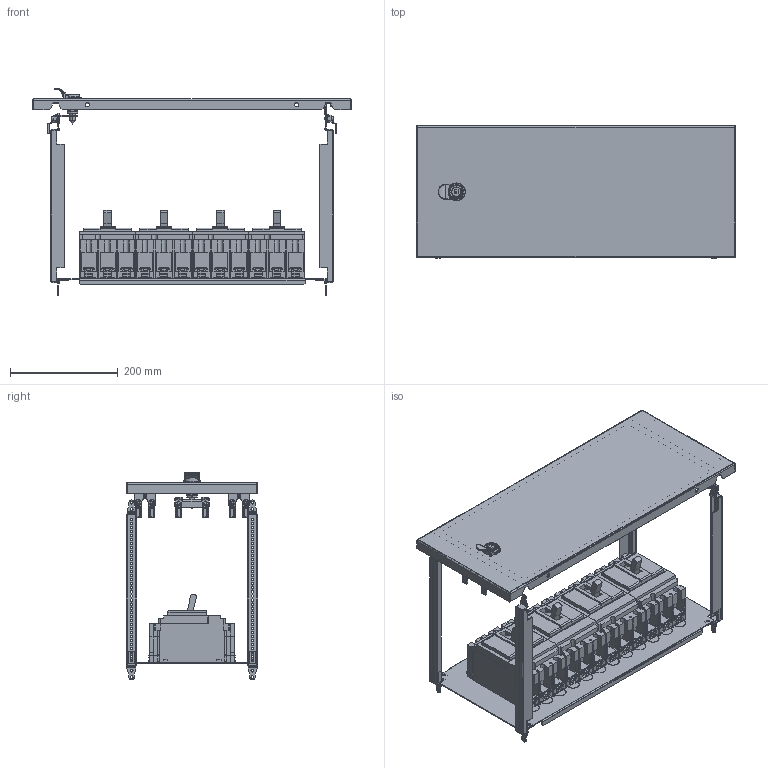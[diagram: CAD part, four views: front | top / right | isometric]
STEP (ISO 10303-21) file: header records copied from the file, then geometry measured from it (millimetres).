
FILE_DESCRIPTION(('CAx-IF Rec.Pracs.---Model Styling and Organization---1.2---2011-12-15','CAx-IF Rec.Pracs.---Geometric and Assembly Validation Properties---4.1---2014-06-16','CAx-IF Rec.Pracs.---PMI Polyline Presentation---2.0---2013-05-24'),'2;1');
FILE_NAME('R5PKEB7V62213 (F).stp','2021-07-29T02:36:50+03:00',(''),(''),'STEP Interface 4.4 by CT CoreTechnologie','3D_Evolution4.4 by CT CoreTechnologie','');
FILE_SCHEMA(('AUTOMOTIVE_DESIGN { 1 0 10303 214 1 1 1 1 }'));
Length unit declared in the file: millimetre
Products named in the file (1): R5PKEB7V62213 (F)
Bounding box: 594 x 245 x 386.9 mm (x, y, z)
Surface area: 1470014.3 mm2 (no closed solid volume)
Topology: 0 solids, 109 shells, 5088 faces, 14279 edges, 9447 vertices
Faces by surface type: plane 3399, cylinder 1217, bspline 472
Entity records: 173932 total; most frequent: CARTESIAN_POINT 41359, ORIENTED_EDGE 28480, DIRECTION 26117, EDGE_CURVE 14240, VECTOR 10987, LINE 10987, VERTEX_POINT 9515, AXIS2_PLACEMENT_3D 7565
